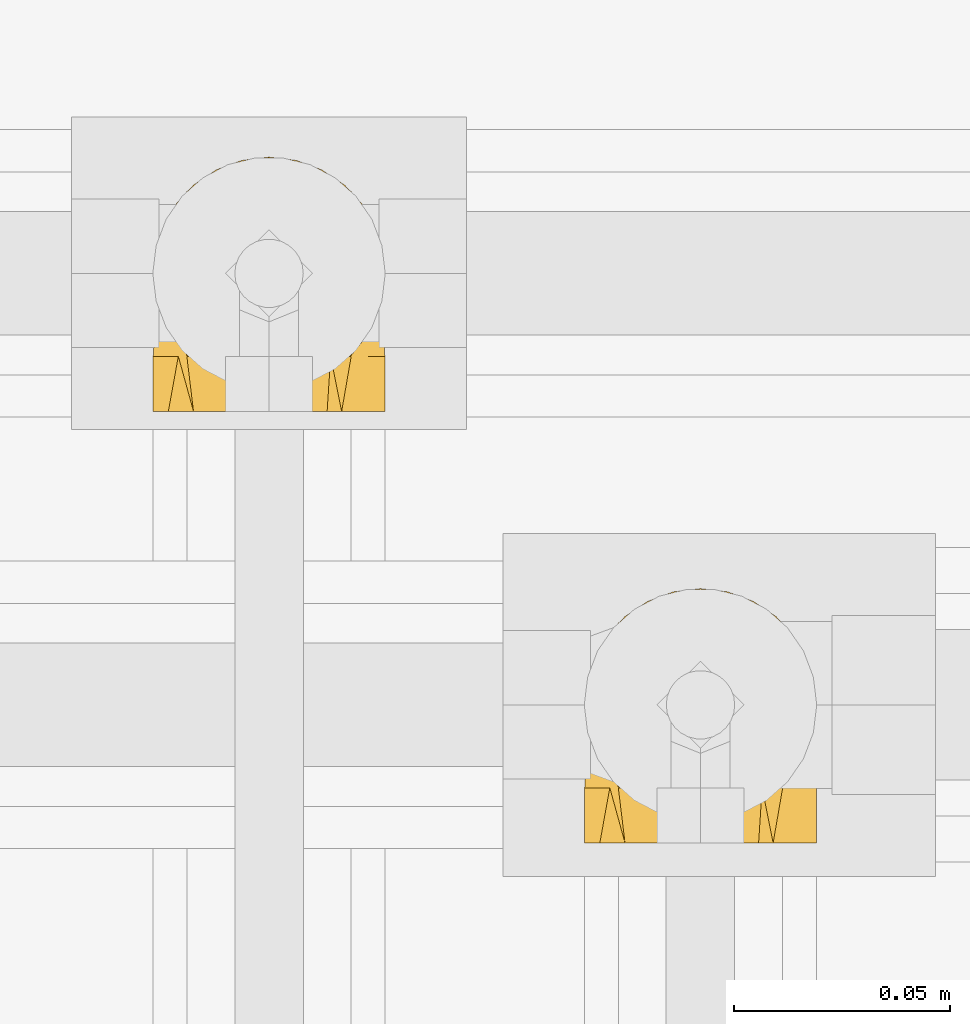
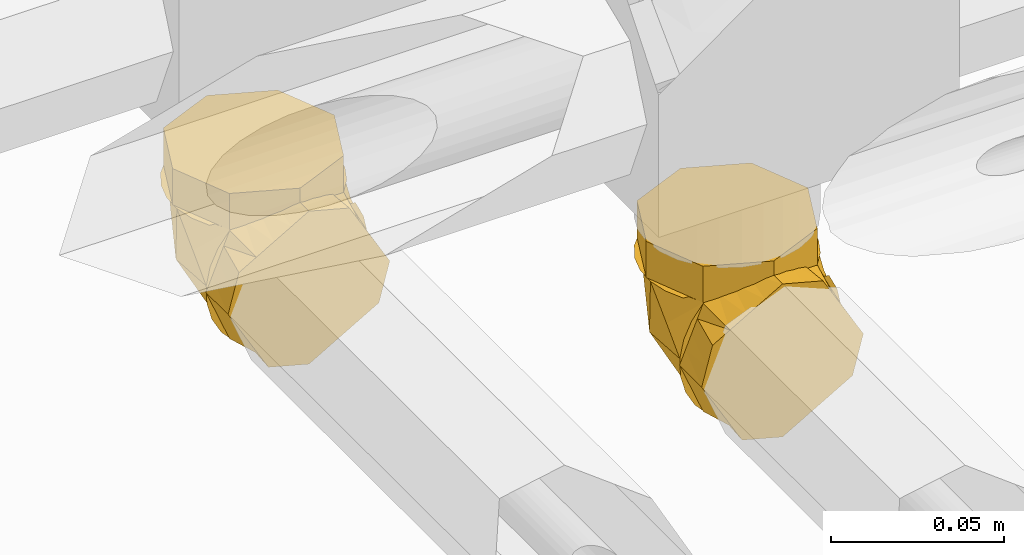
# One storey, part 354 of 652: 2 coverings.
"""IFC2X3 building model written with IfcOpenShell, lengths in millimetres."""

from ifc_helpers import new_model, entity, si_unit, converted_unit, direction, frame, origin, place, context, subcontext, project, spatial, face_set, surface_model, material, type_object, element, save


model = new_model("IFC2X3")

# Units and contexts
model_context = context("Model", 3, precision=0.01, world=frame((0.0, 0.0, 308426.39999999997)), true_north=direction((6.123233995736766e-17, 1.0)))
plan_context = context("Plan", 3, precision=0.01, world=frame((0.0, 0.0, 308426.39999999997)), true_north=direction((6.123233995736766e-17, 1.0)))
body_context = subcontext(model_context, "Body", "Model", "MODEL_VIEW")
ifc_project = project(units=[si_unit("LENGTHUNIT", "METRE", prefix="MILLI"), si_unit("AREAUNIT", "SQUARE_METRE"), si_unit("VOLUMEUNIT", "CUBIC_METRE"), converted_unit("PLANEANGLEUNIT", "DEGREE", entity("IfcPlaneAngleMeasure", 0.017453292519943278), si_unit("PLANEANGLEUNIT", "RADIAN"), dimensions=[0, 0, 0, 0, 0, 0, 0])], contexts=[model_context, plan_context])

# Site, building, storey
site_placement = place(None, origin())
site = spatial("IfcSite", under=ifc_project, at=site_placement, Name="Default", CompositionType="ELEMENT")
building_placement = place(site_placement, origin())
building = spatial("IfcBuilding", under=site, at=building_placement, CompositionType="ELEMENT")
storey_placement = place(building_placement, frame((0.0, 0.0, 1730.6999999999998)))
storey = spatial("IfcBuildingStorey", under=building, at=storey_placement, Name="EG_Produktion_FFB", CompositionType="ELEMENT", Elevation=1730.6999999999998)

# Coverings
ifc_material = material(Name="Dämmung - Armaflex-Schlauch")
covering_type = type_object("IfcCoveringType", Name="Rohrdämmung außen:Armaflex-Schlauch", PredefinedType="INSULATION")
covering_1_placement = place(storey_placement, frame((52371.467227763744, 40743.01624999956, 3671.467227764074)))
element("IfcCovering", 1, at=covering_1_placement, inside=storey, type_object=covering_type, material=ifc_material, Name="Rohrdämmung außen:Armaflex-Schlauch", ObjectType="Rohrdämmung außen:Armaflex-Schlauch", PredefinedType="INSULATION", context=body_context, shape_type="SurfaceModel", body=[
    surface_model("IfcFaceBasedSurfaceModel", [(47.409122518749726, 12.766249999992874, 47.750272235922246), (51.38658262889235, 17.724287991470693, 47.750272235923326), (54.09156424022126, 23.47627931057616, 47.750272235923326), (55.373456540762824, 29.70195853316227, 47.75027223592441), (55.160884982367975, 36.054685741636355, 47.75027223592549), (53.465685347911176, 42.1807471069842, 47.75027223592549), (50.382244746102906, 47.7390493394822, 47.75027223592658), (46.08224622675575, 52.420111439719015, 47.75027223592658), (40.80510963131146, 55.963296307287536, 47.75027223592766), (34.84466092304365, 58.17132276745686, 47.75027223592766), (28.532772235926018, 58.921249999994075, 47.75027223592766), (22.220883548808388, 58.17132276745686, 47.75027223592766), (16.260434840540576, 55.963296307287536, 47.75027223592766), (10.983298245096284, 52.420111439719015, 47.75027223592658), (6.6832997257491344, 47.7390493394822, 47.75027223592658), (3.5998591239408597, 42.1807471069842, 47.75027223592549), (1.904659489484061, 36.054685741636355, 47.75027223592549), (1.6920879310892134, 29.70195853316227, 47.75027223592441), (2.973980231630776, 23.47627931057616, 47.750272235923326), (5.678961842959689, 17.724287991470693, 47.750272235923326), (9.656421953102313, 12.766249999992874, 47.750272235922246), (5.678961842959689, 12.766249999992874, 42.79223424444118), (2.973980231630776, 12.766249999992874, 37.04024292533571), (1.6920879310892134, 12.766249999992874, 30.81456370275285), (1.904659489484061, 12.766249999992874, 24.46183649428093), (3.5998591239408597, 12.766249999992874, 18.335775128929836), (6.6832997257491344, 12.766249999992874, 12.777472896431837), (10.983298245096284, 12.766250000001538, 8.096410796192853), (16.260434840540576, 12.766250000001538, 4.5532259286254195), (22.220883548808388, 12.766250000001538, 2.3451994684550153), (28.532772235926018, 12.766250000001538, 1.5952722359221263), (34.84466092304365, 12.766250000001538, 2.3451994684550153), (40.80510963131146, 12.766250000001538, 4.553225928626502), (46.08224622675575, 12.766250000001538, 8.096410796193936), (50.382244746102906, 12.766249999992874, 12.777472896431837), (53.465685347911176, 12.766249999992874, 18.33577512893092), (55.160884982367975, 12.766249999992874, 24.46183649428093), (55.373456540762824, 12.766249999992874, 30.81456370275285), (54.09156424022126, 12.766249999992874, 37.04024292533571), (51.38658262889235, 12.766249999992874, 42.79223424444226), (54.7885461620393, 21.44902099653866, 37.807698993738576), (28.534334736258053, 52.735483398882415, 24.673035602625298), (53.4676965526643, 33.564560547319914, 26.950803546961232), (50.728328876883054, 41.061777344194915, 47.75011537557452), (28.534334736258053, 31.029831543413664, 12.140079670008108), (42.7799768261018, 41.843125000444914, 17.332785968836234), (50.728328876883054, 12.76583007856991, 19.45533082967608), (14.284041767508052, 41.843125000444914, 17.332785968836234), (2.275472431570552, 21.44902099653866, 37.807698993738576), (3.600972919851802, 33.564560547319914, 26.950803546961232), (6.335689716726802, 12.76583007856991, 19.45533082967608), (6.335689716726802, 41.061777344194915, 47.75011537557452), (42.818538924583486, 53.00389168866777, 60.51652223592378), (38.056616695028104, 54.97634445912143, 60.5165222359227), (33.29469446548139, 56.948797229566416, 60.5165222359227), (28.532772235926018, 58.921250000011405, 60.5165222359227), (23.770850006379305, 56.948797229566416, 60.5165222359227), (19.00892777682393, 54.97634445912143, 60.5165222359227), (14.247005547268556, 53.00389168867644, 60.51652223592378), (9.48508331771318, 51.03143891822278, 60.51652223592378), (7.512630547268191, 46.26951668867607, 60.51652223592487), (5.540177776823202, 41.507594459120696, 60.51652223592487), (3.567725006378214, 36.74567222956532, 60.51652223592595), (1.5952722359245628, 31.983750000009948, 60.516522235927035), (3.567725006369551, 27.22182777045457, 60.516522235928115), (5.540177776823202, 22.459905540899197, 60.516522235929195), (7.512630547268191, 17.69798331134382, 60.516522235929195), (9.48508331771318, 12.936061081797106, 60.51652223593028), (14.247005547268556, 10.963608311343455, 60.51652223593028), (19.00892777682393, 8.991155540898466, 60.51652223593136), (23.770850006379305, 7.018702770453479, 60.51652223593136), (28.532772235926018, 5.046250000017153, 60.51652223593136), (33.29469446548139, 7.018702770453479, 60.51652223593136), (38.056616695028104, 8.991155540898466, 60.51652223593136), (42.818538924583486, 10.963608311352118, 60.51652223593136), (47.58046115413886, 12.936061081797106, 60.51652223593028), (49.55291392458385, 17.69798331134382, 60.516522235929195), (51.525366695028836, 22.459905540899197, 60.516522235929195), (53.497819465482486, 27.22182777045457, 60.516522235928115), (55.47027223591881, 31.983750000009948, 60.516522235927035), (53.497819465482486, 36.74567222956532, 60.51652223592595), (51.525366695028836, 41.507594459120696, 60.51652223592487), (49.55291392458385, 46.26951668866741, 60.51652223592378), (47.58046115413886, 51.03143891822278, 60.51652223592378), (28.532772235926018, 58.92125000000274, 47.75027223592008), (33.29469446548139, 56.948797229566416, 47.75027223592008), (38.056616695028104, 54.97634445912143, 47.750272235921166), (42.818538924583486, 53.00389168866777, 47.750272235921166), (47.58046115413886, 51.03143891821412, 47.750272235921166), (49.96980627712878, 45.26304951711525, 47.750272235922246), (52.35915140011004, 39.49466011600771, 47.750272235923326), (55.47027223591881, 31.983750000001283, 47.75027223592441), (53.497819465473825, 27.22182777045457, 47.75027223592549), (51.525366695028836, 22.459905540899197, 47.75027223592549), (49.55291392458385, 17.69798331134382, 47.75027223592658), (47.58046115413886, 12.936061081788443, 47.75027223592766), (41.81207175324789, 10.546715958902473, 47.75027223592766), (36.04368235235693, 8.157370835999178, 47.75027223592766), (28.532772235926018, 5.046250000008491, 47.75027223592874), (23.770850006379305, 7.018702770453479, 47.75027223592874), (19.00892777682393, 8.991155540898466, 47.75027223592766), (14.247005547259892, 10.963608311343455, 47.75027223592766), (9.48508331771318, 12.936061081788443, 47.75027223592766), (7.095738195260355, 18.704450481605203, 47.75027223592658), (4.706393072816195, 24.472839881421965, 47.75027223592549), (1.5952722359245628, 31.983750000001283, 47.75027223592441), (3.567725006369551, 36.74567222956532, 47.750272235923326), (5.540177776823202, 41.507594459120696, 47.750272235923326), (7.512630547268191, 46.26951668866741, 47.750272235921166), (9.48508331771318, 51.03143891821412, 47.750272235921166), (15.253472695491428, 53.420784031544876, 47.750272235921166), (21.021862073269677, 55.810129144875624, 47.75027223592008), (28.532772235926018, 0.0, 1.595272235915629), (34.36491206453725, 0.0, 4.962459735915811), (40.197051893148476, 0.0, 8.329647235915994), (46.02919172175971, 0.0, 11.696834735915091), (51.86133155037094, 0.0, 15.064022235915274), (53.66580189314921, 0.0, 21.798397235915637), (55.470272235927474, 0.0, 28.532772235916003), (52.10308473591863, 0.0, 34.36491206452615), (48.73589723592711, 0.0, 40.19705189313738), (45.36870973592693, 0.0, 46.02919172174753), (42.00152223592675, 0.0, 51.861331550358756), (35.26714723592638, 0.0, 53.66580189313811), (28.532772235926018, 0.0, 55.470272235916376), (22.70063240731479, 0.0, 52.10308473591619), (16.86849257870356, 0.0, 48.73589723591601), (11.036352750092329, 0.0, 45.36870973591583), (5.204212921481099, 0.0, 42.00152223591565), (3.399742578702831, 0.0, 35.26714723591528), (1.5952722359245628, 0.0, 28.532772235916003), (4.962459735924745, 0.0, 22.700632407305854), (8.329647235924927, 0.0, 16.868492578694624), (11.696834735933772, 0.0, 11.036352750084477), (15.064022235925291, 0.0, 5.204212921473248), (21.798397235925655, 0.0, 3.399742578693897), (28.532772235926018, 12.766250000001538, 1.595272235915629), (23.770850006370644, 12.766250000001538, 3.567725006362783), (19.00892777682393, 12.766250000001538, 5.540177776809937), (14.247005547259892, 12.766249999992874, 7.512630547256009), (9.48508331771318, 12.766250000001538, 9.485083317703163), (7.512630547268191, 12.766250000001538, 14.247005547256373), (5.540177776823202, 12.766250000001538, 19.008927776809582), (3.567725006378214, 12.766250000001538, 23.770850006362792), (1.5952722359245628, 12.766250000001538, 28.532772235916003), (3.567725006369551, 12.766250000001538, 33.29469446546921), (5.540177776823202, 12.766250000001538, 38.05661669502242), (7.512630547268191, 12.766250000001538, 42.818538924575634), (9.48508331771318, 12.766250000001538, 47.58046115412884), (14.247005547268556, 12.766250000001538, 49.552913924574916), (19.00892777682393, 12.766250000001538, 51.525366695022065), (23.770850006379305, 12.766250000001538, 53.49781946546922), (28.532772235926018, 12.766250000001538, 55.470272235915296), (33.29469446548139, 12.766250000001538, 53.49781946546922), (38.056616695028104, 12.766250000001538, 51.525366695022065), (42.818538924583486, 12.766250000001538, 49.552913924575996), (47.58046115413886, 12.766250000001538, 47.58046115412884), (49.55291392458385, 12.766250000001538, 42.818538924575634), (51.525366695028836, 12.766250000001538, 38.05661669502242), (53.497819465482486, 12.766250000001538, 33.29469446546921), (55.470272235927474, 12.766250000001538, 28.532772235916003), (53.497819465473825, 12.766250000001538, 23.770850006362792), (51.525366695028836, 12.766250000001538, 19.008927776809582), (49.55291392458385, 12.766249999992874, 14.24700554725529), (47.58046115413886, 12.766250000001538, 9.485083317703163), (42.818538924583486, 12.766250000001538, 7.512630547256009), (38.056616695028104, 12.766250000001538, 5.540177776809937), (33.29469446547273, 12.766249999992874, 3.567725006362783)], [face_set([[[0, 1, 2, 3, 4, 5, 6, 7, 8, 9, 10, 11, 12, 13, 14, 15, 16, 17, 18, 19]], [[20, 21, 22, 23, 24, 25, 26, 27, 28, 29, 30, 31, 32, 33, 34, 35, 36, 37, 38, 39]], [[0, 40, 3]], [[10, 7, 41]], [[37, 42, 40]], [[42, 7, 43]], [[37, 40, 0]], [[3, 40, 42]], [[44, 41, 45]], [[7, 45, 41]], [[33, 30, 44]], [[44, 45, 33]], [[42, 33, 45]], [[42, 37, 46, 33]], [[7, 42, 45]], [[43, 3, 42]], [[13, 10, 41]], [[27, 47, 44]], [[44, 30, 27]], [[48, 49, 23]], [[49, 27, 50]], [[17, 49, 48]], [[44, 47, 41]], [[20, 48, 23]], [[47, 49, 13]], [[17, 48, 20]], [[41, 47, 13]], [[49, 17, 51]], [[27, 49, 47]], [[50, 23, 49]], [[51, 13, 49]]]), face_set([[[52, 53, 54, 55, 56, 57, 58, 59, 60, 61, 62, 63, 64, 65, 66, 67, 68, 69, 70, 71, 72, 73, 74, 75, 76, 77, 78, 79, 80, 81, 82, 83]], [[84, 85, 86, 87, 88, 89, 90, 91, 92, 93, 94, 95, 96, 97, 98, 99, 100, 101, 102, 103, 104, 105, 106, 107, 108, 109, 110, 111]], [[111, 110, 109, 59, 58, 57, 56, 55, 84]], [[59, 109, 108, 107, 106, 105, 63, 62, 61, 60]], [[104, 103, 102, 67, 66, 65, 64, 63, 105]], [[67, 102, 101, 100, 99, 98, 71, 70, 69, 68]], [[97, 96, 95, 75, 74, 73, 72, 71, 98]], [[75, 95, 94, 93, 92, 91, 79, 78, 77, 76]], [[90, 89, 88, 83, 82, 81, 80, 79, 91]], [[83, 88, 87, 86, 85, 84, 55, 54, 53, 52]]]), face_set([[[112, 113, 114, 115, 116, 117, 118, 119, 120, 121, 122, 123, 124, 125, 126, 127, 128, 129, 130, 131, 132, 133, 134, 135]], [[136, 137, 138, 139, 140, 141, 142, 143, 144, 145, 146, 147, 148, 149, 150, 151, 152, 153, 154, 155, 156, 157, 158, 159, 160, 161, 162, 163, 164, 165, 166, 167]], [[155, 121, 156]], [[118, 159, 119]], [[159, 158, 119]], [[123, 154, 153]], [[153, 152, 124]], [[121, 155, 122]], [[120, 158, 157]], [[118, 160, 159]], [[158, 120, 119]], [[124, 123, 153]], [[157, 156, 121]], [[155, 154, 122]], [[123, 122, 154]], [[120, 157, 121]], [[163, 115, 164]], [[112, 167, 113]], [[167, 166, 113]], [[117, 162, 161]], [[161, 160, 118]], [[115, 163, 116]], [[114, 166, 165]], [[112, 136, 167]], [[166, 114, 113]], [[118, 117, 161]], [[165, 164, 115]], [[163, 162, 116]], [[117, 116, 162]], [[114, 165, 115]], [[139, 133, 140]], [[130, 143, 131]], [[143, 142, 131]], [[135, 138, 137]], [[137, 136, 112]], [[133, 139, 134]], [[132, 142, 141]], [[130, 144, 143]], [[142, 132, 131]], [[112, 135, 137]], [[141, 140, 133]], [[139, 138, 134]], [[135, 134, 138]], [[132, 141, 133]], [[147, 127, 148]], [[124, 151, 125]], [[151, 150, 125]], [[129, 146, 145]], [[145, 144, 130]], [[127, 147, 128]], [[126, 150, 149]], [[124, 152, 151]], [[150, 126, 125]], [[130, 129, 145]], [[149, 148, 127]], [[147, 146, 128]], [[129, 128, 146]], [[126, 149, 127]]])]),
])
covering_2_placement = place(storey_placement, frame((52271.46722776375, 40843.01624999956, 3671.467227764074)))
element("IfcCovering", 2, at=covering_2_placement, inside=storey, type_object=covering_type, material=ifc_material, Name="Rohrdämmung außen:Armaflex-Schlauch", ObjectType="Rohrdämmung außen:Armaflex-Schlauch", PredefinedType="INSULATION", context=body_context, shape_type="SurfaceModel", body=[
    surface_model("IfcFaceBasedSurfaceModel", [(47.409122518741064, 12.766249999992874, 47.750272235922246), (51.38658262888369, 17.724287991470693, 47.750272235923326), (54.0915642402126, 23.47627931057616, 47.750272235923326), (55.37345654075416, 29.70195853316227, 47.75027223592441), (55.16088498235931, 36.054685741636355, 47.75027223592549), (53.465685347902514, 42.1807471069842, 47.75027223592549), (50.38224474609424, 47.7390493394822, 47.75027223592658), (46.08224622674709, 52.420111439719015, 47.75027223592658), (40.8051096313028, 55.963296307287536, 47.75027223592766), (34.844660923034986, 58.17132276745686, 47.75027223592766), (28.532772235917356, 58.921249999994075, 47.75027223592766), (22.220883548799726, 58.17132276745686, 47.75027223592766), (16.26043484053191, 55.963296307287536, 47.75027223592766), (10.983298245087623, 52.420111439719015, 47.75027223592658), (6.683299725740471, 47.7390493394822, 47.75027223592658), (3.599859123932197, 42.1807471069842, 47.75027223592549), (1.904659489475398, 36.054685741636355, 47.75027223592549), (1.6920879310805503, 29.70195853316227, 47.75027223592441), (2.973980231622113, 23.47627931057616, 47.750272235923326), (5.678961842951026, 17.724287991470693, 47.750272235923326), (9.65642195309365, 12.766249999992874, 47.750272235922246), (5.678961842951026, 12.766249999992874, 42.79223424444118), (2.973980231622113, 12.766249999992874, 37.04024292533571), (1.6920879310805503, 12.766249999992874, 30.81456370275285), (1.904659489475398, 12.766249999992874, 24.46183649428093), (3.599859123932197, 12.766249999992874, 18.335775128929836), (6.683299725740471, 12.766249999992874, 12.777472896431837), (10.983298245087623, 12.766250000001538, 8.096410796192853), (16.26043484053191, 12.766250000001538, 4.5532259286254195), (22.220883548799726, 12.766250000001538, 2.3451994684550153), (28.532772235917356, 12.766250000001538, 1.5952722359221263), (34.844660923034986, 12.766250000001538, 2.3451994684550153), (40.8051096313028, 12.766250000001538, 4.553225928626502), (46.08224622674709, 12.766250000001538, 8.096410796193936), (50.38224474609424, 12.766249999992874, 12.777472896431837), (53.465685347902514, 12.766249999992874, 18.33577512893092), (55.16088498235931, 12.766249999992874, 24.46183649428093), (55.37345654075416, 12.766249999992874, 30.81456370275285), (54.0915642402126, 12.766249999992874, 37.04024292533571), (51.38658262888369, 12.766249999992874, 42.79223424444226), (54.78999879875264, 21.44756835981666, 37.807698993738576), (28.53113649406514, 52.73868164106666, 24.673035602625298), (53.46449831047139, 33.56775878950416, 26.950803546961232), (50.72978151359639, 41.06032470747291, 47.75011537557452), (28.53113649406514, 31.02837890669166, 12.140079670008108), (42.78142946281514, 41.841672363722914, 17.332785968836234), (50.72978151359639, 12.76437744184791, 19.45533082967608), (14.28549440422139, 41.841672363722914, 17.332785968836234), (2.2769250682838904, 21.44756835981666, 37.807698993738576), (3.59777467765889, 33.56775878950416, 26.950803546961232), (6.33714235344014, 12.76437744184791, 19.45533082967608), (6.33714235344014, 41.06032470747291, 47.75011537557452), (42.818538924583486, 53.00389168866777, 60.51652223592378), (38.056616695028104, 54.97634445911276, 60.5165222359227), (33.29469446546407, 56.94879722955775, 60.5165222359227), (28.532772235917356, 58.921250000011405, 60.5165222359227), (23.77085000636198, 56.948797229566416, 60.5165222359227), (19.008927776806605, 54.97634445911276, 60.5165222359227), (14.247005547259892, 53.00389168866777, 60.51652223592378), (9.485083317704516, 51.03143891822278, 60.51652223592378), (7.512630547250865, 46.26951668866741, 60.51652223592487), (5.540177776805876, 41.507594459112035, 60.51652223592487), (3.567725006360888, 36.74567222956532, 60.51652223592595), (1.5952722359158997, 31.983750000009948, 60.516522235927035), (3.567725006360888, 27.221827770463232, 60.516522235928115), (5.540177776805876, 22.459905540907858, 60.516522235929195), (7.512630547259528, 17.697983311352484, 60.516522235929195), (9.485083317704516, 12.936061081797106, 60.51652223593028), (14.247005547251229, 10.963608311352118, 60.51652223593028), (19.008927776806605, 8.99115554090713, 60.51652223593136), (23.77085000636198, 7.018702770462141, 60.51652223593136), (28.532772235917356, 5.046250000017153, 60.51652223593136), (33.29469446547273, 7.018702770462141, 60.51652223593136), (38.056616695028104, 8.99115554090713, 60.51652223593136), (42.818538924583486, 10.963608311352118, 60.51652223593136), (47.5804611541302, 12.936061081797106, 60.51652223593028), (49.55291392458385, 17.697983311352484, 60.516522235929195), (51.525366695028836, 22.459905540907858, 60.516522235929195), (53.49781946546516, 27.221827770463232, 60.516522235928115), (55.47027223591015, 31.983750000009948, 60.516522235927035), (53.497819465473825, 36.74567222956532, 60.51652223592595), (51.525366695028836, 41.507594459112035, 60.51652223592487), (49.552913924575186, 46.26951668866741, 60.51652223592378), (47.5804611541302, 51.03143891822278, 60.51652223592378), (28.532772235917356, 58.92125000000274, 47.75027223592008), (33.29469446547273, 56.948797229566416, 47.75027223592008), (38.056616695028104, 54.97634445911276, 47.750272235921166), (42.81853892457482, 53.00389168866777, 47.750272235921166), (47.5804611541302, 51.03143891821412, 47.750272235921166), (49.96980627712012, 45.26304951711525, 47.750272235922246), (52.35915140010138, 39.49466011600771, 47.750272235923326), (55.47027223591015, 31.983750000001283, 47.75027223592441), (53.497819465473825, 27.22182777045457, 47.75027223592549), (51.525366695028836, 22.459905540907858, 47.75027223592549), (49.55291392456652, 17.697983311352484, 47.75027223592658), (47.5804611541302, 12.936061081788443, 47.75027223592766), (41.81207175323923, 10.546715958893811, 47.75027223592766), (36.04368235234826, 8.157370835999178, 47.75027223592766), (28.532772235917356, 5.046250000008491, 47.75027223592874), (23.77085000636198, 7.018702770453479, 47.75027223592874), (19.008927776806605, 8.99115554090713, 47.75027223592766), (14.247005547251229, 10.963608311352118, 47.75027223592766), (9.485083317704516, 12.936061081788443, 47.75027223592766), (7.095738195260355, 18.704450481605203, 47.75027223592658), (4.706393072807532, 24.472839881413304, 47.75027223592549), (1.5952722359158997, 31.983750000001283, 47.75027223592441), (3.567725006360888, 36.74567222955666, 47.750272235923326), (5.540177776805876, 41.507594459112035, 47.750272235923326), (7.512630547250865, 46.26951668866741, 47.750272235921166), (9.485083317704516, 51.03143891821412, 47.750272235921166), (15.253472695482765, 53.420784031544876, 47.750272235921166), (21.021862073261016, 55.810129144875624, 47.75027223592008), (28.532772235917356, 0.0, 1.595272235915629), (34.36491206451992, 0.0, 4.962459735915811), (40.197051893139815, 0.0, 8.329647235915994), (46.02919172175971, 0.0, 11.696834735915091), (51.86133155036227, 0.0, 15.064022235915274), (53.66580189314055, 0.0, 21.798397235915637), (55.47027223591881, 0.0, 28.532772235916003), (52.10308473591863, 0.0, 34.36491206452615), (48.73589723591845, 0.0, 40.19705189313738), (45.368709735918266, 0.0, 46.02919172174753), (42.00152223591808, 0.0, 51.861331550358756), (35.26714723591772, 0.0, 53.66580189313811), (28.532772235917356, 0.0, 55.470272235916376), (22.700632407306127, 0.0, 52.10308473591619), (16.868492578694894, 0.0, 48.73589723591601), (11.036352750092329, 0.0, 45.36870973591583), (5.204212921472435, 0.0, 42.00152223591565), (3.3997425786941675, 0.0, 35.26714723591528), (1.5952722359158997, 0.0, 28.532772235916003), (4.962459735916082, 0.0, 22.700632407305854), (8.329647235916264, 0.0, 16.868492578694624), (11.696834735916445, 0.0, 11.036352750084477), (15.064022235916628, 0.0, 5.204212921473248), (21.79839723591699, 0.0, 3.399742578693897), (28.532772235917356, 12.766250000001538, 1.595272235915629), (23.77085000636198, 12.766250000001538, 3.567725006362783), (19.008927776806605, 12.766250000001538, 5.540177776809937), (14.247005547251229, 12.766250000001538, 7.512630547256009), (9.485083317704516, 12.766250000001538, 9.485083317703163), (7.512630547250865, 12.766250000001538, 14.247005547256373), (5.540177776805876, 12.766250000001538, 19.008927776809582), (3.567725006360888, 12.766250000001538, 23.770850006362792), (1.5952722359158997, 12.766250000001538, 28.532772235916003), (3.567725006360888, 12.766250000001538, 33.29469446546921), (5.540177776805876, 12.766250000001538, 38.05661669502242), (7.512630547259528, 12.766250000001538, 42.818538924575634), (9.485083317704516, 12.766250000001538, 47.58046115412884), (14.247005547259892, 12.766250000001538, 49.552913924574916), (19.008927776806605, 12.766250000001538, 51.525366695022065), (23.77085000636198, 12.766250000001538, 53.49781946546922), (28.532772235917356, 12.766250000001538, 55.470272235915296), (33.29469446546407, 12.766250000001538, 53.49781946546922), (38.056616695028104, 12.766250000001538, 51.525366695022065), (42.818538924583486, 12.766250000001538, 49.552913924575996), (47.5804611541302, 12.766250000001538, 47.58046115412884), (49.552913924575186, 12.766250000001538, 42.818538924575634), (51.525366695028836, 12.766250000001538, 38.05661669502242), (53.497819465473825, 12.766250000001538, 33.29469446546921), (55.47027223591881, 12.766250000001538, 28.532772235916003), (53.497819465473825, 12.766250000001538, 23.770850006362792), (51.525366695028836, 12.766250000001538, 19.008927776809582), (49.55291392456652, 12.766250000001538, 14.24700554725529), (47.5804611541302, 12.766250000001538, 9.485083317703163), (42.81853892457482, 12.766250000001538, 7.512630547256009), (38.056616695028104, 12.766250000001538, 5.540177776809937), (33.29469446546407, 12.766250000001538, 3.567725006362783)], [face_set([[[0, 1, 2, 3, 4, 5, 6, 7, 8, 9, 10, 11, 12, 13, 14, 15, 16, 17, 18, 19]], [[20, 21, 22, 23, 24, 25, 26, 27, 28, 29, 30, 31, 32, 33, 34, 35, 36, 37, 38, 39]], [[0, 40, 3]], [[10, 7, 41]], [[37, 42, 40]], [[42, 7, 43]], [[37, 40, 0]], [[3, 40, 42]], [[44, 41, 45]], [[7, 45, 41]], [[33, 30, 44]], [[44, 45, 33]], [[42, 33, 45]], [[42, 37, 46]], [[7, 42, 45]], [[43, 3, 42]], [[46, 33, 42]], [[13, 10, 41]], [[27, 47, 44]], [[44, 30, 27]], [[48, 49, 23]], [[49, 27, 50, 23]], [[17, 49, 48]], [[44, 47, 41]], [[20, 48, 23]], [[47, 49, 13]], [[17, 48, 20]], [[41, 47, 13]], [[49, 17, 51]], [[27, 49, 47]], [[51, 13, 49]]]), face_set([[[52, 53, 54, 55, 56, 57, 58, 59, 60, 61, 62, 63, 64, 65, 66, 67, 68, 69, 70, 71, 72, 73, 74, 75, 76, 77, 78, 79, 80, 81, 82, 83]], [[84, 85, 86, 87, 88, 89, 90, 91, 92, 93, 94, 95, 96, 97, 98, 99, 100, 101, 102, 103, 104, 105, 106, 107, 108, 109, 110, 111]], [[111, 110, 109, 59, 58, 57, 56, 55, 84]], [[59, 109, 108, 107, 106, 105, 63, 62, 61, 60]], [[104, 103, 102, 67, 66, 65, 64, 63, 105]], [[67, 102, 101, 100, 99, 98, 71, 70, 69, 68]], [[97, 96, 95, 75, 74, 73, 72, 71, 98]], [[75, 95, 94, 93, 92, 91, 79, 78, 77, 76]], [[90, 89, 88, 83, 82, 81, 80, 79, 91]], [[83, 88, 87, 86, 85, 84, 55, 54, 53, 52]]]), face_set([[[112, 113, 114, 115, 116, 117, 118, 119, 120, 121, 122, 123, 124, 125, 126, 127, 128, 129, 130, 131, 132, 133, 134, 135]], [[136, 137, 138, 139, 140, 141, 142, 143, 144, 145, 146, 147, 148, 149, 150, 151, 152, 153, 154, 155, 156, 157, 158, 159, 160, 161, 162, 163, 164, 165, 166, 167]], [[155, 121, 156]], [[118, 159, 119]], [[159, 158, 119]], [[123, 154, 153]], [[153, 152, 124]], [[121, 155, 122]], [[120, 158, 157]], [[118, 160, 159]], [[158, 120, 119]], [[124, 123, 153]], [[157, 156, 121]], [[155, 154, 122]], [[123, 122, 154]], [[120, 157, 121]], [[163, 115, 164]], [[112, 167, 113]], [[167, 166, 113]], [[117, 162, 161]], [[161, 160, 118]], [[115, 163, 116]], [[114, 166, 165]], [[112, 136, 167]], [[166, 114, 113]], [[118, 117, 161]], [[165, 164, 115]], [[163, 162, 116]], [[117, 116, 162]], [[114, 165, 115]], [[139, 133, 140]], [[130, 143, 131]], [[143, 142, 131]], [[135, 138, 137]], [[137, 136, 112]], [[133, 139, 134]], [[132, 142, 141]], [[130, 144, 143]], [[142, 132, 131]], [[112, 135, 137]], [[141, 140, 133]], [[139, 138, 134]], [[135, 134, 138]], [[132, 141, 133]], [[147, 127, 148]], [[124, 151, 125]], [[151, 150, 125]], [[129, 146, 145]], [[145, 144, 130]], [[127, 147, 128]], [[126, 150, 149]], [[124, 152, 151]], [[150, 126, 125]], [[130, 129, 145]], [[149, 148, 127]], [[147, 146, 128]], [[129, 128, 146]], [[126, 149, 127]]])]),
])

save(model, "model.ifc")
